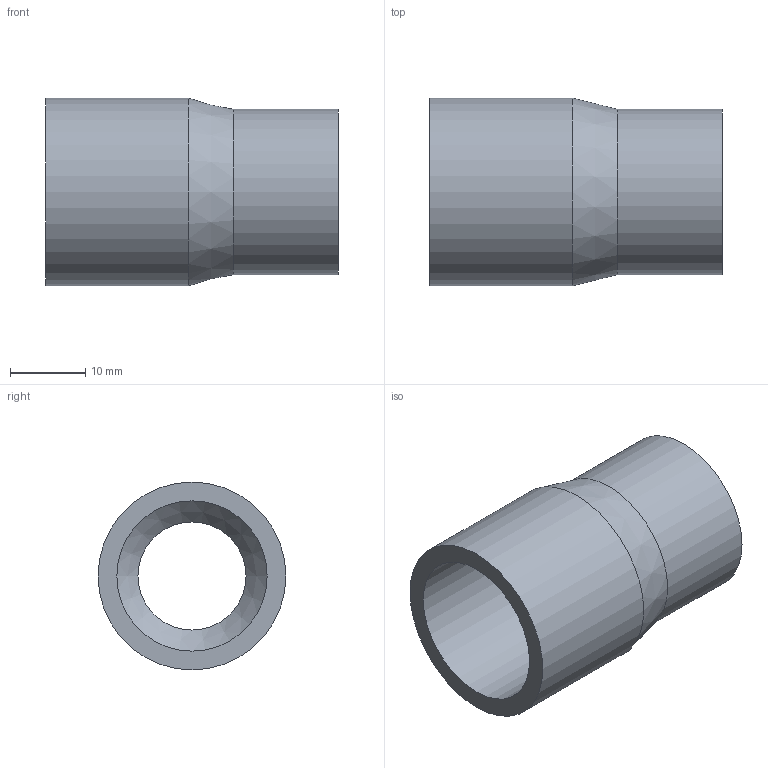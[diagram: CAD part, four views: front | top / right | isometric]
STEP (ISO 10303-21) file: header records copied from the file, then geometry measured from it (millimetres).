
FILE_DESCRIPTION(/* description */ ('PLASSON REDUCING SOCKET M.F.25(20)16 CEMENTED'),/* implementation_level */ '2;1');
FILE_NAME(/* name */ 'C:\Dropbox\KIMPROJECTS-Inventor\99-16-3568-Processing\PVC Catalog 2017\050200\050200025016.ipt.stp',/* time_stamp */ '2017-12-07T15:52:06+02:00',/* author */ ('KIM'),/* organization */ (''),/* preprocessor_version */ 'ST-DEVELOPER v15.6',/* originating_system */ 'Autodesk Inventor 2015',/* authorisation */ '');
FILE_SCHEMA (('AUTOMOTIVE_DESIGN { 1 0 10303 214 3 1 1 }'));
Length unit declared in the file: millimetre
Products named in the file (1): 050200025016
Bounding box: 39 x 25 x 25 mm (x, y, z)
Volume: 7746.9 mm3; surface area: 5513.9 mm2
Topology: 1 solids, 1 shells, 10 faces, 17 edges, 10 vertices
Faces by surface type: cylinder 5, plane 3, cone 2
Full cylindrical faces by diameter (mm): 14.4 x1, 16 x1, 20 x1, 22 x1, 25 x1
Entity records: 232 total; most frequent: DIRECTION 42, CARTESIAN_POINT 31, AXIS2_PLACEMENT_3D 21, EDGE_LOOP 20, ORIENTED_EDGE 20, FACE_BOUND 10, FACE_OUTER_BOUND 10, CIRCLE 10
